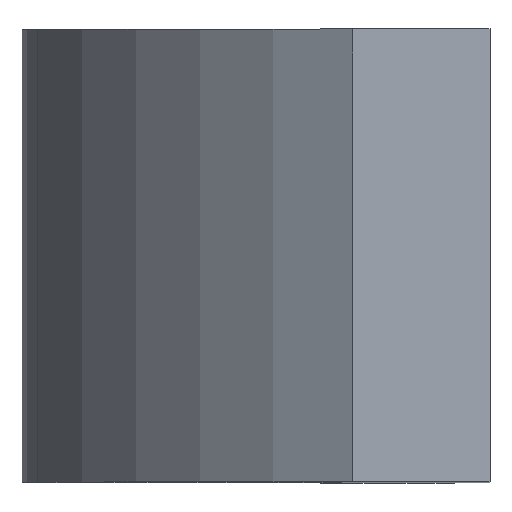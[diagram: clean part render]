
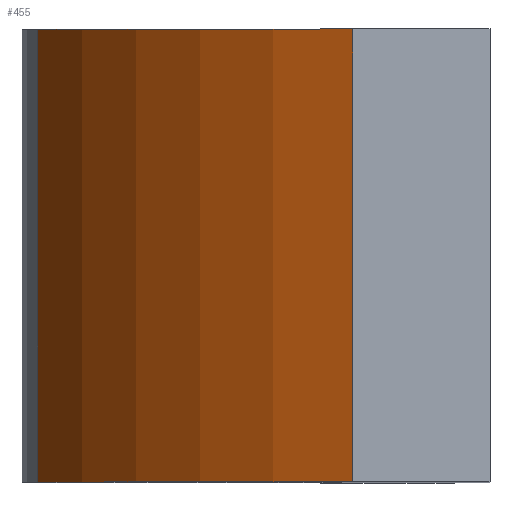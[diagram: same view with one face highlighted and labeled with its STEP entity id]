
A CAD part, top view. The second image highlights one B-rep face of the part: STEP entity #455.
In plain terms, the highlighted cylindrical face has radius 30 mm (diameter 60 mm), a partial arc.
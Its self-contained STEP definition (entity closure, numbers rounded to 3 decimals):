
#6 = ORIENTED_EDGE ( 'NONE', *, *, #509, .F. ) ;
#7 = ORIENTED_EDGE ( 'NONE', *, *, #493, .T. ) ;
#17 = FACE_OUTER_BOUND ( 'NONE', #196, .T. ) ;
#57 = LINE ( 'NONE', #264, #101 ) ;
#64 = ORIENTED_EDGE ( 'NONE', *, *, #520, .T. ) ;
#88 = ORIENTED_EDGE ( 'NONE', *, *, #490, .F. ) ;
#101 = VECTOR ( 'NONE', #380, 1000. ) ;
#150 = CIRCLE ( 'NONE', #501, 30. ) ;
#153 = CYLINDRICAL_SURFACE ( 'NONE', #518, 30. ) ;
#155 = CIRCLE ( 'NONE', #553, 30. ) ;
#172 = VECTOR ( 'NONE', #443, 1000. ) ;
#183 = LINE ( 'NONE', #259, #172 ) ;
#196 = EDGE_LOOP ( 'NONE', ( #7, #88, #6, #64 ) ) ;
#222 = DIRECTION ( 'NONE',  ( 1., 0., 0. ) ) ;
#237 = VERTEX_POINT ( 'NONE', #353 ) ;
#259 = CARTESIAN_POINT ( 'NONE',  ( 6.5, 0., 17.7 ) ) ;
#264 = CARTESIAN_POINT ( 'NONE',  ( -7.289, 0., 3.298 ) ) ;
#265 = DIRECTION ( 'NONE',  ( 0., -1., 0. ) ) ;
#269 = CARTESIAN_POINT ( 'NONE',  ( 20.044, 19.8, -9.069 ) ) ;
#272 = DIRECTION ( 'NONE',  ( 0., -1., 0. ) ) ;
#275 = DIRECTION ( 'NONE',  ( 1., 0., 0. ) ) ;
#311 = DIRECTION ( 'NONE',  ( 0., 1., 0. ) ) ;
#320 = CARTESIAN_POINT ( 'NONE',  ( 20.044, 0., -9.069 ) ) ;
#337 = VERTEX_POINT ( 'NONE', #419 ) ;
#343 = VERTEX_POINT ( 'NONE', #445 ) ;
#353 = CARTESIAN_POINT ( 'NONE',  ( 6.5, 19.8, 17.7 ) ) ;
#371 = DIRECTION ( 'NONE',  ( 1., 0., 0. ) ) ;
#379 = CARTESIAN_POINT ( 'NONE',  ( 6.5, 0., 17.7 ) ) ;
#380 = DIRECTION ( 'NONE',  ( 0., 1., 0. ) ) ;
#381 = CARTESIAN_POINT ( 'NONE',  ( 20.044, 0., -9.069 ) ) ;
#395 = VERTEX_POINT ( 'NONE', #379 ) ;
#419 = CARTESIAN_POINT ( 'NONE',  ( -7.289, 19.8, 3.298 ) ) ;
#443 = DIRECTION ( 'NONE',  ( 0., 1., 0. ) ) ;
#445 = CARTESIAN_POINT ( 'NONE',  ( -7.289, 0., 3.298 ) ) ;
#455 = ADVANCED_FACE ( 'NONE', ( #17 ), #153, .T. ) ;
#490 = EDGE_CURVE ( 'NONE', #343, #337, #57, .T. ) ;
#493 = EDGE_CURVE ( 'NONE', #237, #337, #155, .T. ) ;
#501 = AXIS2_PLACEMENT_3D ( 'NONE', #320, #265, #222 ) ;
#509 = EDGE_CURVE ( 'NONE', #395, #343, #150, .T. ) ;
#518 = AXIS2_PLACEMENT_3D ( 'NONE', #381, #311, #371 ) ;
#520 = EDGE_CURVE ( 'NONE', #395, #237, #183, .T. ) ;
#553 = AXIS2_PLACEMENT_3D ( 'NONE', #269, #272, #275 ) ;
